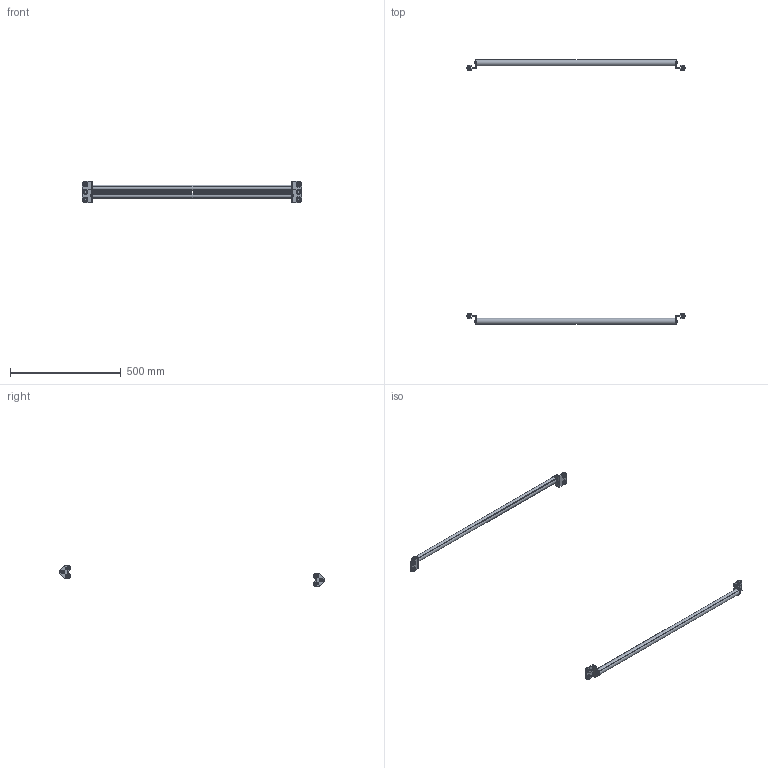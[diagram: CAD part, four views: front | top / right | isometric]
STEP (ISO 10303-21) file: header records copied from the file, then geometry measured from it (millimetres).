
FILE_DESCRIPTION(('STEP AP242'),'1');
FILE_NAME('ALD_GRSE12.stp','2026-01-22T15:23:33',(' '),(' '),'Spatial InterOp 3D',' ',' ');
FILE_SCHEMA(('AP242_MANAGED_MODEL_BASED_3D_ENGINEERING_MIM_LF {1 0 10303 442 1 1 4}'));
Length unit declared in the file: millimetre
Products named in the file (8): ALD_GRS_T101212_E2V2; D28; Support D28; Vis à tête rectangulaire M8x20; Ecrou de butée M8; Vis centrale S8x25-T40; Equerre support D28
Assembly tree (12 placements, depth 3):
  ALD_GRS_T101212_E2V2
    D28
    D28
    Support D28  x4
      Vis à tête rectangulaire M8x20
      Ecrou de butée M8
      Vis centrale S8x25-T40
      Equerre support D28
Bounding box: 988 x 1195 x 95 mm (x, y, z)
Volume: 555849.4 mm3; surface area: 545347.6 mm2
Topology: 26 solids, 26 shells, 866 faces, 2284 edges, 1490 vertices
Faces by surface type: cylinder 330, plane 308, torus 168, cone 48, sphere 8, bspline 4
Full cylindrical faces by diameter (mm): 6.75 x4, 6.8 x8, 8 x12, 8.3 x4, 16.2 x4, 21.6 x8, 28 x2
Entity records: 10299 total; most frequent: CARTESIAN_POINT 1699, DIRECTION 1283, ORIENTED_EDGE 1262, EDGE_CURVE 631, AXIS2_PLACEMENT_3D 468, VERTEX_POINT 428, LINE 347, VECTOR 347
